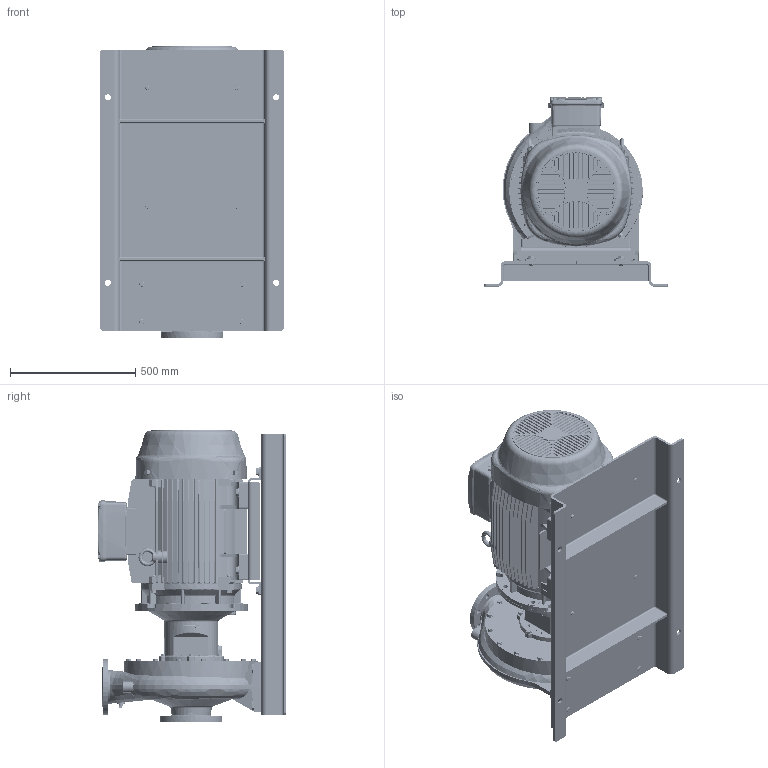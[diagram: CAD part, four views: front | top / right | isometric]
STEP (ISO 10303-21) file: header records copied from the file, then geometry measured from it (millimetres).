
FILE_DESCRIPTION (( 'STEP AP214' ), '1' );
FILE_NAME ('GSD4 100-400_37 & 45_(225SM)_W21_BP.STEP', '2026-05-08T05:06:36', ( '' ), ( '' ), 'SwSTEP 2.0', 'SolidWorks 2024', '' );
FILE_SCHEMA (( 'AUTOMOTIVE_DESIGN' ));
Length unit declared in the file: millimetre
Products named in the file (10): CGS11-5282; Parametric Flat Washer_M20; Parametric Flat Washer_M16; 100-400-225S_M_ﾃﾞﾌｫﾙﾄ; Parametric bolt_SFT-A351B; GSD4 100-400_37 & 45_(225SM)_W21_BP; Parametric bolt_SFT-A403B; N9S4 GSDA-941 F1-1832973-00; 225S_M4P IE3_W21T_B35; Parametric bolt_SFT-A359B
Assembly tree (28 placements, depth 2):
  GSD4 100-400_37 & 45_(225SM)_W21_BP
    100-400-225S_M_ﾃﾞﾌｫﾙﾄ
    225S_M4P IE3_W21T_B35
    N9S4 GSDA-941 F1-1832973-00
    CGS11-5282
    Parametric bolt_SFT-A351B  x4
    Parametric Flat Washer_M16  x8
    Parametric bolt_SFT-A359B  x4
    Parametric bolt_SFT-A403B  x4
    Parametric Flat Washer_M20  x4
Bounding box: 730 x 753 x 1164.5 mm (x, y, z)
Volume: 161139818.7 mm3; surface area: 7431966.9 mm2
Topology: 37 solids, 42 shells, 4473 faces, 11731 edges, 7481 vertices
Faces by surface type: plane 1856, cylinder 1521, cone 530, bspline 289, torus 259, sphere 18
Entity records: 168654 total; most frequent: CARTESIAN_POINT 76407, ORIENTED_EDGE 20140, DIRECTION 18314, EDGE_CURVE 10070, AXIS2_PLACEMENT_3D 6662, VERTEX_POINT 6410, LINE 4990, VECTOR 4990
